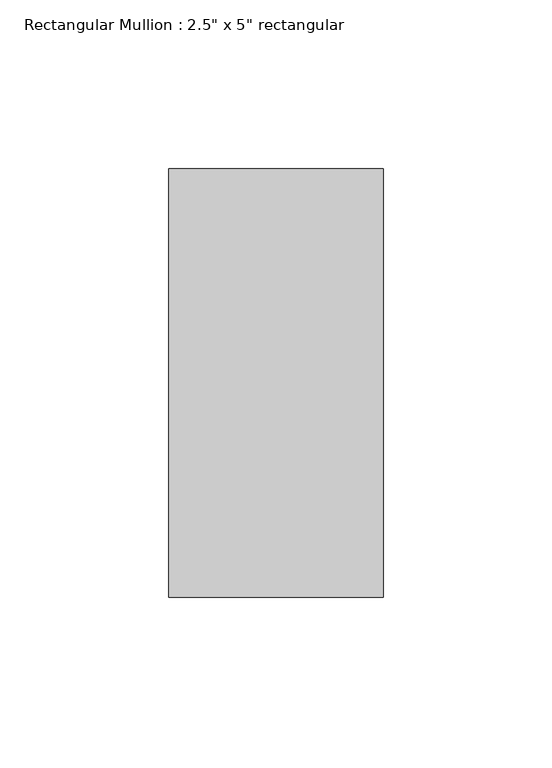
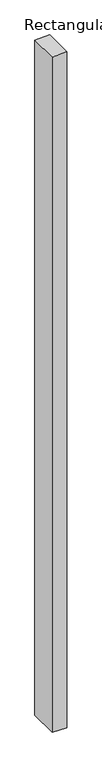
"""IFC4 building model written with IfcOpenShell, lengths in millimetres: member geometry."""

from ifc_helpers import new_model, si_unit, frame, origin, place, context, project, spatial, polyline, outline, extrude, source, transform, mapped, element, save


def member_407e5b0f(model_context):
    return source(origin(), model_context, "Body", "SweptSolid", [
        extrude(outline(polyline([(0.0, 0.0), (-1.2446063, -63.5), (-3055.7662502, -63.5), (-3056.8729624, 0.0), (0.0, 0.0)])), frame((0.0, -63.5, 0.0), z_axis=(0.0, 1.0, 0.0), x_axis=(0.0, 0.0, 1.0)), (0.0, 0.0, 1.0), 127.0),
    ])


if __name__ == "__main__":
    model = new_model("IFC4")
    model_context = context("Model", 3, world=origin())
    ifc_project = project(units=[si_unit("LENGTHUNIT", "METRE", prefix="MILLI")], contexts=[model_context])
    site = spatial("IfcSite", under=ifc_project)
    building = spatial("IfcBuilding", under=site)
    placement = place(None, origin())
    member_shape = member_407e5b0f(model_context)
    element("IfcMember", 1, ObjectType="Rectangular Mullion : 2.5\" x 5\" rectangular", at=placement, inside=building, context=model_context, shape_type="MappedRepresentation", body=[
        mapped(member_shape, transform((0.0, 0.0, 0.0), x_axis=(1.0, 0.0, 0.0), y_axis=(0.0, 1.0, 0.0), z_axis=(0.0, 0.0, 1.0))),
    ])
    save(model, "model.ifc")
